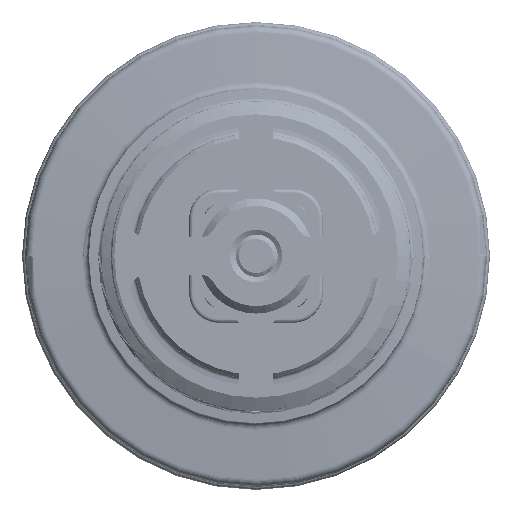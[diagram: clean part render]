
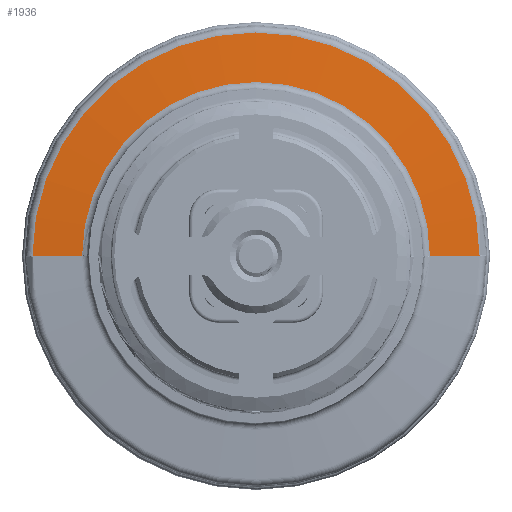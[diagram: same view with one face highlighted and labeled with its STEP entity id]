
A CAD part, front view. The second image highlights one B-rep face of the part: STEP entity #1936.
In plain terms, the highlighted conical face has half-angle 85 degrees and reference radius 26.75 mm.
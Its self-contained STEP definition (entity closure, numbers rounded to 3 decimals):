
#60=CARTESIAN_POINT('',(0.,26.42,0.));
#61=DIRECTION('',(0.,-1.,0.));
#62=DIRECTION('',(1.,0.,0.));
#63=AXIS2_PLACEMENT_3D('',#60,#61,#62);
#65=CARTESIAN_POINT('',(0.,26.42,0.));
#66=DIRECTION('',(0.,-1.,0.));
#67=DIRECTION('',(1.,0.,0.005));
#68=AXIS2_PLACEMENT_3D('',#65,#66,#67);
#79=DIRECTION('',(-0.996,-0.087,0.));
#80=VECTOR('',#79,6.7);
#81=CARTESIAN_POINT('',(30.087,26.42,0.));
#82=LINE('',#81,#80);
#83=DIRECTION('',(0.996,-0.087,0.));
#84=VECTOR('',#83,6.7);
#85=CARTESIAN_POINT('',(-30.087,26.42,
0.));
#86=LINE('',#85,#84);
#112=CARTESIAN_POINT('',(0.,25.836,0.));
#113=DIRECTION('',(0.,1.,0.));
#114=DIRECTION('',(-1.,0.,0.));
#115=AXIS2_PLACEMENT_3D('',#112,#113,#114);
#117=CARTESIAN_POINT('',(0.,25.836,0.));
#118=DIRECTION('',(0.,1.,0.));
#119=DIRECTION('',(-1.,0.,0.005));
#120=AXIS2_PLACEMENT_3D('',#117,#118,#119);
#1605=CARTESIAN_POINT('',(-30.087,26.42,
0.));
#1606=VERTEX_POINT('',#1605);
#1608=CARTESIAN_POINT('',(30.087,26.42,0.));
#1610=VERTEX_POINT('',#1608);
#1613=CARTESIAN_POINT('',(30.087,26.42,0.147));
#1614=VERTEX_POINT('',#1613);
#1615=CARTESIAN_POINT('',(23.413,25.836,
0.));
#1616=VERTEX_POINT('',#1615);
#1617=CARTESIAN_POINT('',(-23.413,25.836,
0.121));
#1618=VERTEX_POINT('',#1617);
#1619=CARTESIAN_POINT('',(-23.413,25.836,
0.));
#1620=VERTEX_POINT('',#1619);
#1919=CARTESIAN_POINT('',(0.,26.128,0.));
#1920=DIRECTION('',(0.,1.,0.));
#1921=DIRECTION('',(1.,0.,0.));
#1922=AXIS2_PLACEMENT_3D('',#1919,#1920,#1921);
#1923=CONICAL_SURFACE('',#1922,26.75,85.);
#1924=ORIENTED_EDGE('',*,*,#1900,.F.);
#1925=ORIENTED_EDGE('',*,*,#1898,.F.);
#1927=ORIENTED_EDGE('',*,*,#1926,.T.);
#1929=ORIENTED_EDGE('',*,*,#1928,.F.);
#1931=ORIENTED_EDGE('',*,*,#1930,.F.);
#1933=ORIENTED_EDGE('',*,*,#1932,.F.);
#1934=EDGE_LOOP('',(#1924,#1925,#1927,#1929,#1931,#1933));
#1935=FACE_OUTER_BOUND('',#1934,.F.);
#1936=ADVANCED_FACE('',(#1935),#1923,.T.);
#64=CIRCLE('',#63,30.087);
#69=CIRCLE('',#68,30.087);
#116=CIRCLE('',#115,23.413);
#121=CIRCLE('',#120,23.413);
#1898=EDGE_CURVE('',#1610,#1614,#64,.T.);
#1900=EDGE_CURVE('',#1614,#1606,#69,.T.);
#1926=EDGE_CURVE('',#1610,#1616,#82,.T.);
#1928=EDGE_CURVE('',#1618,#1616,#121,.T.);
#1930=EDGE_CURVE('',#1620,#1618,#116,.T.);
#1932=EDGE_CURVE('',#1606,#1620,#86,.T.);
